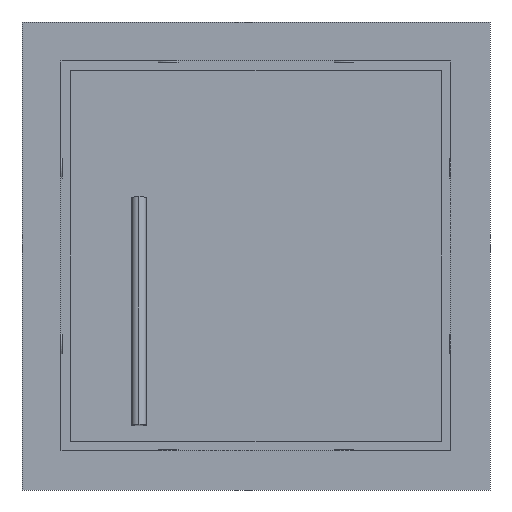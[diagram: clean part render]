
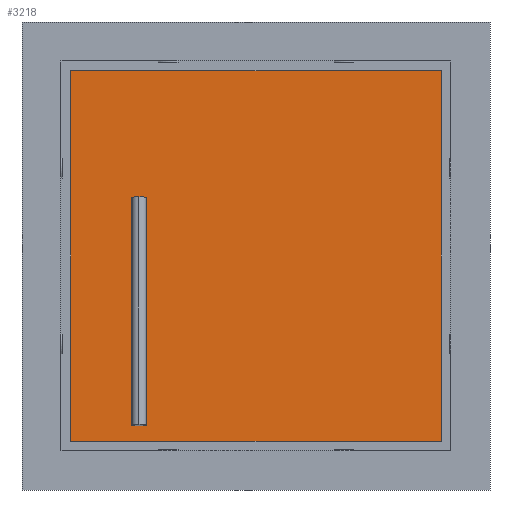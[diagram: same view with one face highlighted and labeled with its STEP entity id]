
A CAD part, front view. The second image highlights one B-rep face of the part: STEP entity #3218.
In plain terms, the highlighted planar face has unit normal (0, -1, 0).
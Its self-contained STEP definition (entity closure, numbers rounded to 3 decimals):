
#2830=DIRECTION('',(0.,0.,-1.));
#2831=VECTOR('',#2830,648.);
#2832=CARTESIAN_POINT('',(324.,79.,315.));
#2833=LINE('',#2832,#2831);
#2838=DIRECTION('',(-1.,0.,0.));
#2839=VECTOR('',#2838,648.);
#2840=CARTESIAN_POINT('',(324.,79.,-333.));
#2841=LINE('',#2840,#2839);
#2846=DIRECTION('',(0.,0.,1.));
#2847=VECTOR('',#2846,648.);
#2848=CARTESIAN_POINT('',(-324.,79.,-333.));
#2849=LINE('',#2848,#2847);
#2854=DIRECTION('',(1.,0.,0.));
#2855=VECTOR('',#2854,648.);
#2856=CARTESIAN_POINT('',(-324.,79.,315.));
#2857=LINE('',#2856,#2855);
#3003=CARTESIAN_POINT('',(324.,79.,315.));
#3004=CARTESIAN_POINT('',(324.,79.,-333.));
#3005=VERTEX_POINT('',#3003);
#3006=VERTEX_POINT('',#3004);
#3007=CARTESIAN_POINT('',(-324.,79.,-333.));
#3008=VERTEX_POINT('',#3007);
#3009=CARTESIAN_POINT('',(-324.,79.,315.));
#3010=VERTEX_POINT('',#3009);
#3204=CARTESIAN_POINT('',(0.,79.,0.));
#3205=DIRECTION('',(0.,1.,0.));
#3206=DIRECTION('',(0.,0.,-1.));
#3207=AXIS2_PLACEMENT_3D('',#3204,#3205,#3206);
#3208=PLANE('',#3207);
#3209=ORIENTED_EDGE('',*,*,#3194,.T.);
#3211=ORIENTED_EDGE('',*,*,#3210,.T.);
#3213=ORIENTED_EDGE('',*,*,#3212,.T.);
#3215=ORIENTED_EDGE('',*,*,#3214,.T.);
#3216=EDGE_LOOP('',(#3209,#3211,#3213,#3215));
#3217=FACE_OUTER_BOUND('',#3216,.F.);
#3194=EDGE_CURVE('',#3005,#3006,#2833,.T.);
#3210=EDGE_CURVE('',#3006,#3008,#2841,.T.);
#3212=EDGE_CURVE('',#3008,#3010,#2849,.T.);
#3214=EDGE_CURVE('',#3010,#3005,#2857,.T.);
#3218=ADVANCED_FACE('',(#3217),#3208,.F.);
